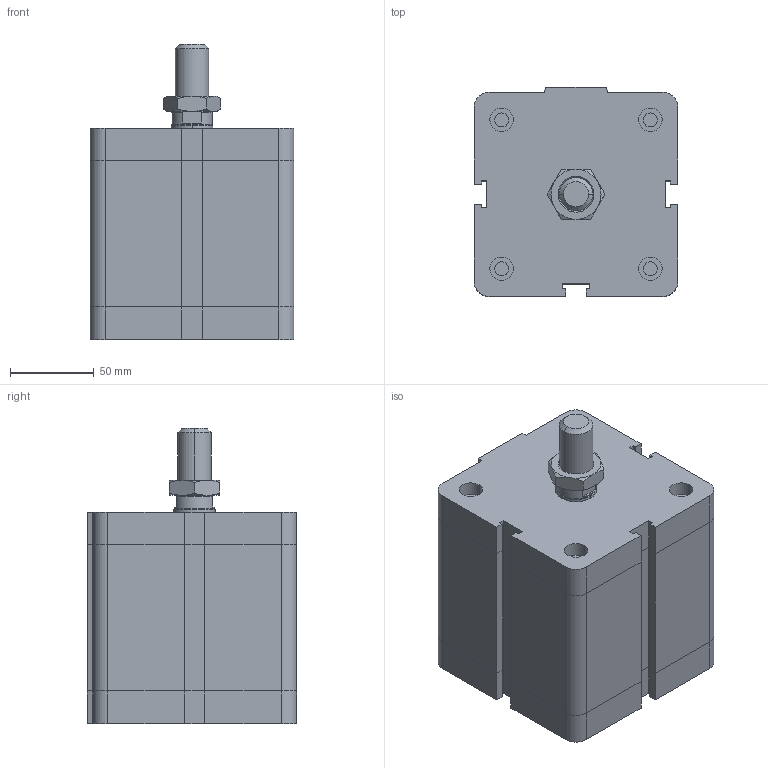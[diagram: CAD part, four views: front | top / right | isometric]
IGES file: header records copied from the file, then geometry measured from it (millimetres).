
Global section: file name: No Iges File Name specified; native system: Autodesk Inventor 2009; preprocessor: AutoDesk Inventor Iges Exporter R2009; author: rivolro1; date: 20081219.161017; units: millimetre
Bounding box: 122 x 125 x 176.5 mm (x, y, z)
Volume: 1851345.4 mm3; surface area: 124484 mm2
Topology: 3 solids, 3 shells, 216 faces, 472 edges, 282 vertices
Faces by surface type: plane 121, bspline 37, cylinder 20, cone 20, revolution 18
